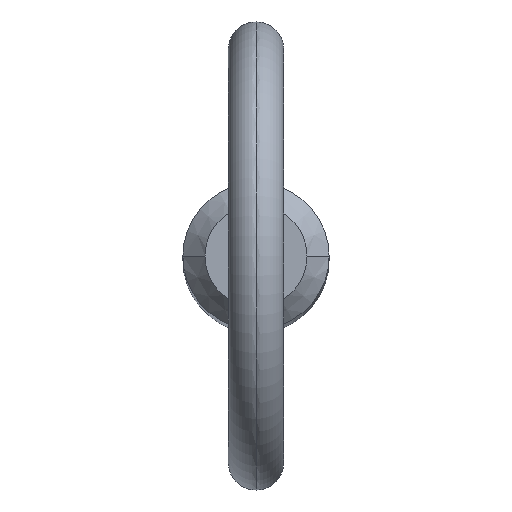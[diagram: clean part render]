
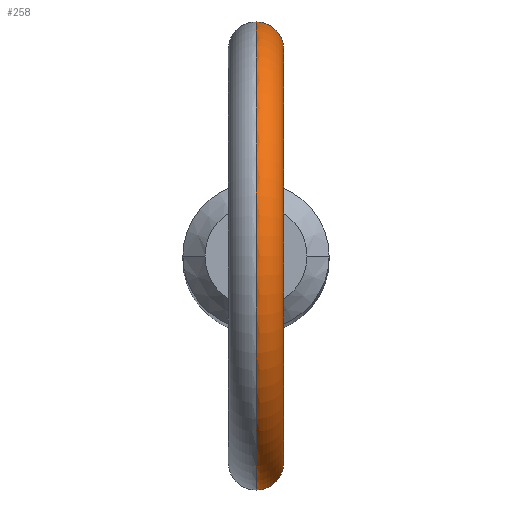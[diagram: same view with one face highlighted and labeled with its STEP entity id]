
A CAD part, top view. The second image highlights one B-rep face of the part: STEP entity #258.
In plain terms, the highlighted toroidal (fillet/blend) face has major radius 11.2 mm and minor radius 1.5 mm.
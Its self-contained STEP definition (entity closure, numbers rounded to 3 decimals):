
#8 = CARTESIAN_POINT ( 'NONE',  ( 1.493, -3.673, 103.904 ) ) ;
#13 = CARTESIAN_POINT ( 'NONE',  ( 1.479, -3.679, 104.007 ) ) ;
#20 = EDGE_CURVE ( 'NONE', #194, #456, #494, .T. ) ;
#22 = ORIENTED_EDGE ( 'NONE', *, *, #67, .F. ) ;
#47 = CARTESIAN_POINT ( 'NONE',  ( 1.499, -3.671, 103.597 ) ) ;
#52 = CARTESIAN_POINT ( 'NONE',  ( 1.441, 3.695, 104.208 ) ) ;
#67 = EDGE_CURVE ( 'NONE', #233, #456, #390, .T. ) ;
#72 = VERTEX_POINT ( 'NONE', #251 ) ;
#86 = CIRCLE ( 'NONE', #301, 9.7 ) ;
#87 = CARTESIAN_POINT ( 'NONE',  ( 0.205, -3.961, 105.434 ) ) ;
#91 = CARTESIAN_POINT ( 'NONE',  ( 0.782, 3.888, 102.437 ) ) ;
#92 = AXIS2_PLACEMENT_3D ( 'NONE', #388, #315, #120 ) ;
#97 = CARTESIAN_POINT ( 'NONE',  ( 1.185, 3.786, 104.76 ) ) ;
#99 = EDGE_CURVE ( 'NONE', #72, #233, #86, .T. ) ;
#120 = DIRECTION ( 'NONE',  ( 0., 0., -1. ) ) ;
#129 = CARTESIAN_POINT ( 'NONE',  ( 0., -3.965, 102.235 ) ) ;
#132 = DIRECTION ( 'NONE',  ( 0., 0., -1. ) ) ;
#144 = CARTESIAN_POINT ( 'NONE',  ( 0., -3.965, 105.447 ) ) ;
#147 = CARTESIAN_POINT ( 'NONE',  ( 0.769, 3.894, 105.201 ) ) ;
#153 = CARTESIAN_POINT ( 'NONE',  ( 0., 0., 114.3 ) ) ;
#161 = EDGE_CURVE ( 'NONE', #194, #72, #435, .T. ) ;
#175 = CARTESIAN_POINT ( 'NONE',  ( 0.693, -3.905, 102.39 ) ) ;
#176 = CARTESIAN_POINT ( 'NONE',  ( 0.77, -3.894, 105.2 ) ) ;
#178 = CARTESIAN_POINT ( 'NONE',  ( 0.204, 3.965, 102.235 ) ) ;
#180 = CARTESIAN_POINT ( 'NONE',  ( 1.503, 3.669, 103.698 ) ) ;
#194 = VERTEX_POINT ( 'NONE', #265 ) ;
#212 = CARTESIAN_POINT ( 'NONE',  ( 0.925, -3.858, 105.068 ) ) ;
#216 = CARTESIAN_POINT ( 'NONE',  ( 0.411, 3.948, 105.391 ) ) ;
#217 = ORIENTED_EDGE ( 'NONE', *, *, #161, .F. ) ;
#233 = VERTEX_POINT ( 'NONE', #144 ) ;
#244 = CARTESIAN_POINT ( 'NONE',  ( 0.782, -3.888, 102.437 ) ) ;
#246 = CARTESIAN_POINT ( 'NONE',  ( 0.949, -3.851, 102.549 ) ) ;
#247 = FACE_OUTER_BOUND ( 'NONE', #350, .T. ) ;
#248 = CARTESIAN_POINT ( 'NONE',  ( 0.691, 3.905, 102.389 ) ) ;
#251 = CARTESIAN_POINT ( 'NONE',  ( 0., 3.965, 105.447 ) ) ;
#255 = CARTESIAN_POINT ( 'NONE',  ( 1.503, -3.669, 103.699 ) ) ;
#258 = ADVANCED_FACE ( 'NONE', ( #247 ), #373, .T. ) ;
#264 = AXIS2_PLACEMENT_3D ( 'NONE', #153, #386, #466 ) ;
#265 = CARTESIAN_POINT ( 'NONE',  ( 0., 3.965, 102.235 ) ) ;
#282 = CARTESIAN_POINT ( 'NONE',  ( 1.471, -3.682, 103.394 ) ) ;
#284 = CARTESIAN_POINT ( 'NONE',  ( 0.205, -3.965, 102.235 ) ) ;
#288 = CARTESIAN_POINT ( 'NONE',  ( 0.41, 3.948, 102.274 ) ) ;
#289 = CARTESIAN_POINT ( 'NONE',  ( 0.404, -3.946, 105.382 ) ) ;
#292 = ORIENTED_EDGE ( 'NONE', *, *, #20, .T. ) ;
#295 = CARTESIAN_POINT ( 'NONE',  ( 1.499, 3.671, 103.594 ) ) ;
#301 = AXIS2_PLACEMENT_3D ( 'NONE', #446, #441, #132 ) ;
#313 = ORIENTED_EDGE ( 'NONE', *, *, #99, .F. ) ;
#314 = CARTESIAN_POINT ( 'NONE',  ( 0., -3.965, 102.235 ) ) ;
#315 = DIRECTION ( 'NONE',  ( 1., 0., 0. ) ) ;
#320 = CARTESIAN_POINT ( 'NONE',  ( 1.447, -3.692, 103.293 ) ) ;
#323 = CARTESIAN_POINT ( 'NONE',  ( 0., 3.965, 102.235 ) ) ;
#330 = CARTESIAN_POINT ( 'NONE',  ( 1.026, 3.831, 102.613 ) ) ;
#332 = CARTESIAN_POINT ( 'NONE',  ( 1.447, 3.692, 103.293 ) ) ;
#350 = EDGE_LOOP ( 'NONE', ( #217, #292, #22, #313 ) ) ;
#357 = CARTESIAN_POINT ( 'NONE',  ( 1.186, -3.786, 104.759 ) ) ;
#363 = CARTESIAN_POINT ( 'NONE',  ( 0.498, -3.935, 105.344 ) ) ;
#364 = CARTESIAN_POINT ( 'NONE',  ( 1.291, -3.75, 104.583 ) ) ;
#366 = CARTESIAN_POINT ( 'NONE',  ( 1.236, 3.77, 102.829 ) ) ;
#369 = CARTESIAN_POINT ( 'NONE',  ( 1.291, 3.75, 104.584 ) ) ;
#373 = TOROIDAL_SURFACE ( 'NONE', #264, 11.2, 1.5 ) ;
#386 = DIRECTION ( 'NONE',  ( 1., 0., 0. ) ) ;
#388 = CARTESIAN_POINT ( 'NONE',  ( 0., 0., 114.3 ) ) ;
#390 = B_SPLINE_CURVE_WITH_KNOTS ( 'NONE', 3,
 ( #452, #488, #87, #289, #363, #176, #212, #357, #364, #406, #408, #13, #8, #255, #47, #282, #320, #444, #481, #400, #246, #244, #175, #451, #284, #129 ),
 .UNSPECIFIED., .F., .F.,
 ( 4, 2, 2, 2, 2, 2, 2, 2, 2, 2, 2, 2, 4 ),
 ( 0.004, 0.005, 0.005, 0.005, 0.006, 0.006, 0.007, 0.007, 0.007, 0.008, 0.008, 0.008, 0.009 ),
 .UNSPECIFIED. ) ;
#400 = CARTESIAN_POINT ( 'NONE',  ( 1.028, -3.83, 102.615 ) ) ;
#406 = CARTESIAN_POINT ( 'NONE',  ( 1.404, -3.708, 104.301 ) ) ;
#408 = CARTESIAN_POINT ( 'NONE',  ( 1.434, -3.697, 104.205 ) ) ;
#413 = CARTESIAN_POINT ( 'NONE',  ( 0.927, 3.858, 105.067 ) ) ;
#424 = CARTESIAN_POINT ( 'NONE',  ( 1.47, 3.682, 103.392 ) ) ;
#435 = B_SPLINE_CURVE_WITH_KNOTS ( 'NONE', 3,
 ( #323, #178, #288, #248, #91, #491, #330, #366, #502, #332, #424, #295, #180, #457, #52, #369, #97, #413, #147, #216, #496, #462 ),
 .UNSPECIFIED., .F., .F.,
 ( 4, 2, 2, 2, 2, 2, 2, 2, 2, 2, 4 ),
 ( 0.001, 0.001, 0.002, 0.002, 0.003, 0.003, 0.003, 0.004, 0.004, 0.005, 0.006 ),
 .UNSPECIFIED. ) ;
#441 = DIRECTION ( 'NONE',  ( 1., 0., 0. ) ) ;
#444 = CARTESIAN_POINT ( 'NONE',  ( 1.346, -3.73, 103.008 ) ) ;
#446 = CARTESIAN_POINT ( 'NONE',  ( 0., 0., 114.3 ) ) ;
#451 = CARTESIAN_POINT ( 'NONE',  ( 0.409, -3.948, 102.274 ) ) ;
#452 = CARTESIAN_POINT ( 'NONE',  ( 0., -3.965, 105.447 ) ) ;
#456 = VERTEX_POINT ( 'NONE', #314 ) ;
#457 = CARTESIAN_POINT ( 'NONE',  ( 1.488, 3.675, 104.005 ) ) ;
#462 = CARTESIAN_POINT ( 'NONE',  ( 0., 3.965, 105.447 ) ) ;
#466 = DIRECTION ( 'NONE',  ( 0., 0., -1. ) ) ;
#481 = CARTESIAN_POINT ( 'NONE',  ( 1.237, -3.77, 102.831 ) ) ;
#488 = CARTESIAN_POINT ( 'NONE',  ( 0.102, -3.965, 105.447 ) ) ;
#491 = CARTESIAN_POINT ( 'NONE',  ( 0.949, 3.851, 102.549 ) ) ;
#494 = CIRCLE ( 'NONE', #92, 12.7 ) ;
#496 = CARTESIAN_POINT ( 'NONE',  ( 0.206, 3.965, 105.447 ) ) ;
#502 = CARTESIAN_POINT ( 'NONE',  ( 1.344, 3.731, 103.003 ) ) ;
